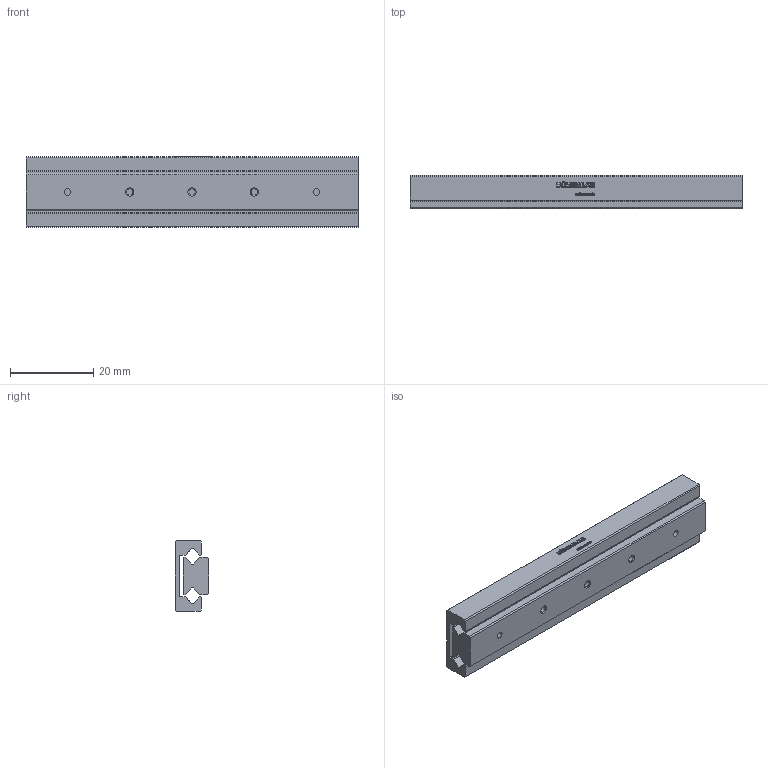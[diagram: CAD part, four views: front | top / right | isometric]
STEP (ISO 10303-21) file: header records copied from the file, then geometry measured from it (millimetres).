
FILE_DESCRIPTION(/* description */ ('STEP AP214'),/* implementation_level */ '2;1');
FILE_NAME(/* name */ 'MSR 7-80.70(0)',/* time_stamp */ '2025-04-16T17:21:44+02:00',/* author */ ('License CC BY-ND 4.0'),/* organization */ ('CADENAS'),/* preprocessor_version */ 'ST-DEVELOPER v19.3',/* originating_system */ 'PARTsolutions',/* authorisation */ ' ');
FILE_SCHEMA (('AUTOMOTIVE_DESIGN {1 0 10303 214 3 1 1}'));
Length unit declared in the file: millimetre
Products named in the file (3): MSR 7-80.70(0); MSR 7-80.70_1; MSR 7-80.70_2
Assembly tree (2 placements, depth 2):
  MSR 7-80.70(0)
    MSR 7-80.70_1
    MSR 7-80.70_2
Bounding box: 80 x 8 x 17 mm (x, y, z)
Volume: 7491.8 mm3; surface area: 7828.9 mm2
Topology: 2 solids, 2 shells, 562 faces, 1567 edges, 1038 vertices
Faces by surface type: cylinder 317, plane 225, cone 20
Full cylindrical faces by diameter (mm): 1.567 x19, 4.25 x2
Entity records: 18099 total; most frequent: DIRECTION 3310, CARTESIAN_POINT 3101, ORIENTED_EDGE 3024, EDGE_CURVE 1512, AXIS2_PLACEMENT_3D 1233, VERTEX_POINT 1024, LINE 844, VECTOR 844
